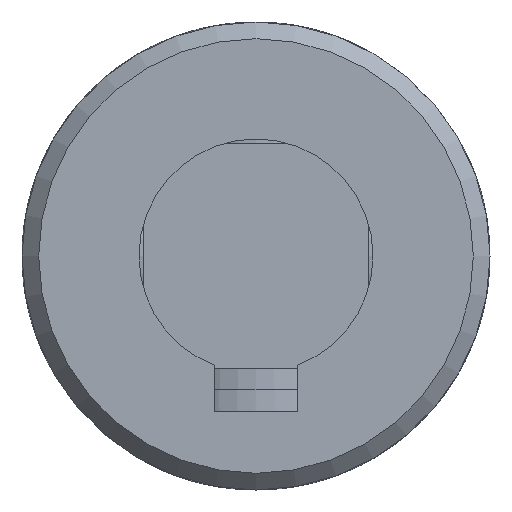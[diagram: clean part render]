
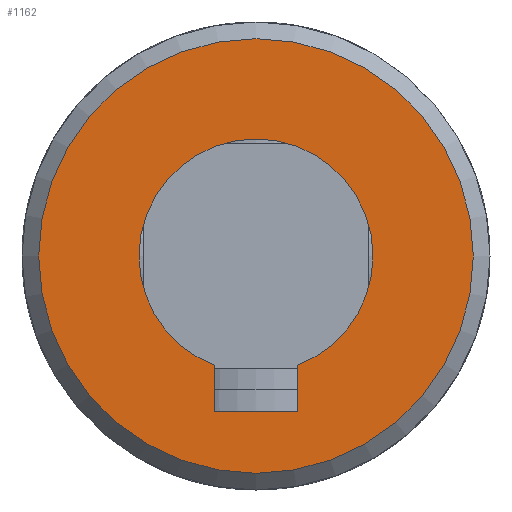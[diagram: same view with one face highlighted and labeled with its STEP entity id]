
A CAD part, front view. The second image highlights one B-rep face of the part: STEP entity #1162.
In plain terms, the highlighted planar face has unit normal (0, -1, 0).
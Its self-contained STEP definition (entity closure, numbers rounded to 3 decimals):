
#129=LINE('',#2093,#174);
#134=LINE('',#2110,#179);
#135=LINE('',#2123,#180);
#174=VECTOR('',#1516,2.762);
#179=VECTOR('',#1527,2.762);
#180=VECTOR('',#1530,5.);
#219=PLANE('',#1281);
#259=FACE_BOUND('',#420,.T.);
#317=FACE_OUTER_BOUND('',#419,.T.);
#419=EDGE_LOOP('',(#981));
#420=EDGE_LOOP('',(#982,#983,#984,#985));
#484=CIRCLE('',#1269,7.);
#489=CIRCLE('',#1279,13.);
#572=VERTEX_POINT('',#2082);
#573=VERTEX_POINT('',#2084);
#575=VERTEX_POINT('',#2092);
#581=VERTEX_POINT('',#2108);
#583=VERTEX_POINT('',#2129);
#707=EDGE_CURVE('',#573,#572,#484,.T.);
#710=EDGE_CURVE('',#575,#573,#129,.T.);
#718=EDGE_CURVE('',#572,#581,#134,.T.);
#720=EDGE_CURVE('',#581,#575,#135,.T.);
#723=EDGE_CURVE('',#583,#583,#489,.T.);
#981=ORIENTED_EDGE('',*,*,#723,.F.);
#982=ORIENTED_EDGE('',*,*,#718,.T.);
#983=ORIENTED_EDGE('',*,*,#720,.T.);
#984=ORIENTED_EDGE('',*,*,#710,.T.);
#985=ORIENTED_EDGE('',*,*,#707,.T.);
#1162=ADVANCED_FACE('',(#317,#259),#219,.F.);
#1269=AXIS2_PLACEMENT_3D('',#2085,#1511,#1512);
#1279=AXIS2_PLACEMENT_3D('',#2130,#1539,#1540);
#1281=AXIS2_PLACEMENT_3D('',#2306,#1547,#1548);
#1511=DIRECTION('center_axis',(0.,1.,0.));
#1512=DIRECTION('ref_axis',(-0.357,0.,0.934));
#1516=DIRECTION('',(0.,0.,1.));
#1527=DIRECTION('',(0.,0.,-1.));
#1530=DIRECTION('',(-1.,0.,0.));
#1539=DIRECTION('center_axis',(0.,1.,0.));
#1540=DIRECTION('ref_axis',(1.,0.,0.));
#1547=DIRECTION('center_axis',(0.,1.,0.));
#1548=DIRECTION('ref_axis',(0.,0.,1.));
#2082=CARTESIAN_POINT('',(2.5,-36.5,-6.538));
#2084=CARTESIAN_POINT('',(-2.5,-36.5,-6.538));
#2085=CARTESIAN_POINT('Origin',(0.,-36.5,0.));
#2092=CARTESIAN_POINT('',(-2.5,-36.5,-9.3));
#2093=CARTESIAN_POINT('',(-2.5,-36.5,-4.65));
#2108=CARTESIAN_POINT('',(2.5,-36.5,-9.3));
#2110=CARTESIAN_POINT('',(2.5,-36.5,-3.269));
#2123=CARTESIAN_POINT('',(1.25,-36.5,-9.3));
#2129=CARTESIAN_POINT('',(-13.,-36.5,0.));
#2130=CARTESIAN_POINT('Origin',(0.,-36.5,0.));
#2306=CARTESIAN_POINT('Origin',(0.,-36.5,0.));
